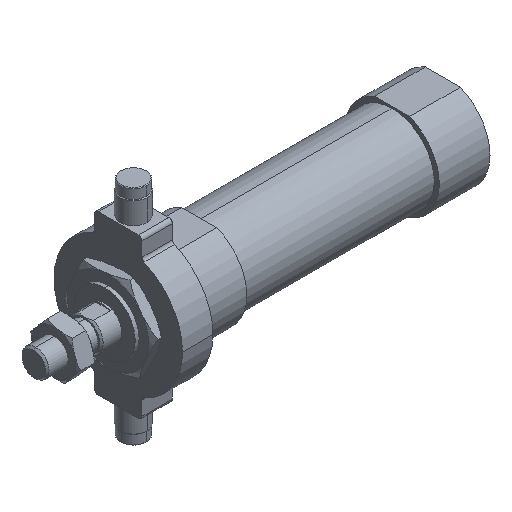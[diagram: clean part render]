
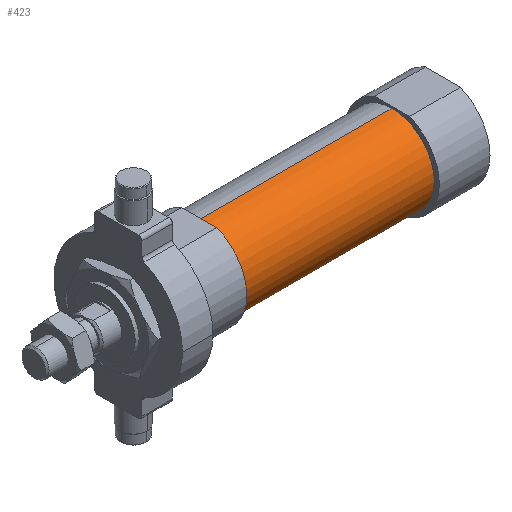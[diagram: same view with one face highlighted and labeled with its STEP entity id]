
A CAD part, isometric view. The second image highlights one B-rep face of the part: STEP entity #423.
In plain terms, the highlighted cylindrical face has radius 12.5 mm (diameter 25 mm), a partial arc.
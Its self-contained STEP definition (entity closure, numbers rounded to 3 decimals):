
#62 = VECTOR ( 'NONE', #2714, 1000. ) ;
#422 = CARTESIAN_POINT ( 'NONE',  ( -6.469, 0., -12.5 ) ) ;
#423 = ADVANCED_FACE ( 'NONE', ( #3119 ), #2866, .T. ) ;
#430 = CARTESIAN_POINT ( 'NONE',  ( -6.469, 0., 12.5 ) ) ;
#439 = DIRECTION ( 'NONE',  ( -1., 0., 0. ) ) ;
#584 = DIRECTION ( 'NONE',  ( 0., 0., 1. ) ) ;
#616 = DIRECTION ( 'NONE',  ( -1., 0., 0. ) ) ;
#1071 = CARTESIAN_POINT ( 'NONE',  ( 49., 0., 0. ) ) ;
#1197 = CIRCLE ( 'NONE', #2375, 12.5 ) ;
#1222 = ORIENTED_EDGE ( 'NONE', *, *, #4061, .F. ) ;
#1325 = AXIS2_PLACEMENT_3D ( 'NONE', #1715, #3017, #2049 ) ;
#1411 = DIRECTION ( 'NONE',  ( -1., 0., 0. ) ) ;
#1537 = ORIENTED_EDGE ( 'NONE', *, *, #2669, .F. ) ;
#1715 = CARTESIAN_POINT ( 'NONE',  ( -6.469, 0., 0. ) ) ;
#1800 = ORIENTED_EDGE ( 'NONE', *, *, #3448, .T. ) ;
#1906 = VERTEX_POINT ( 'NONE', #3033 ) ;
#2049 = DIRECTION ( 'NONE',  ( 0., 0., 1. ) ) ;
#2276 = EDGE_CURVE ( 'NONE', #4031, #2710, #3023, .T. ) ;
#2375 = AXIS2_PLACEMENT_3D ( 'NONE', #1071, #439, #2740 ) ;
#2669 = EDGE_CURVE ( 'NONE', #4031, #1906, #2860, .T. ) ;
#2710 = VERTEX_POINT ( 'NONE', #3375 ) ;
#2714 = DIRECTION ( 'NONE',  ( -1., 0., 0. ) ) ;
#2740 = DIRECTION ( 'NONE',  ( 0., 0., 1. ) ) ;
#2849 = AXIS2_PLACEMENT_3D ( 'NONE', #3907, #616, #584 ) ;
#2860 = LINE ( 'NONE', #422, #4158 ) ;
#2866 = CYLINDRICAL_SURFACE ( 'NONE', #1325, 12.5 ) ;
#2956 = VERTEX_POINT ( 'NONE', #3561 ) ;
#3017 = DIRECTION ( 'NONE',  ( -1., 0., 0. ) ) ;
#3023 = CIRCLE ( 'NONE', #2849, 12.5 ) ;
#3033 = CARTESIAN_POINT ( 'NONE',  ( 49., 0., -12.5 ) ) ;
#3119 = FACE_OUTER_BOUND ( 'NONE', #3197, .T. ) ;
#3197 = EDGE_LOOP ( 'NONE', ( #1537, #3350, #1800, #1222 ) ) ;
#3211 = LINE ( 'NONE', #430, #62 ) ;
#3350 = ORIENTED_EDGE ( 'NONE', *, *, #2276, .T. ) ;
#3375 = CARTESIAN_POINT ( 'NONE',  ( 106., 0., 12.5 ) ) ;
#3424 = CARTESIAN_POINT ( 'NONE',  ( 106., 0., -12.5 ) ) ;
#3448 = EDGE_CURVE ( 'NONE', #2710, #2956, #3211, .T. ) ;
#3561 = CARTESIAN_POINT ( 'NONE',  ( 49., 0., 12.5 ) ) ;
#3907 = CARTESIAN_POINT ( 'NONE',  ( 106., 0., 0. ) ) ;
#4031 = VERTEX_POINT ( 'NONE', #3424 ) ;
#4061 = EDGE_CURVE ( 'NONE', #1906, #2956, #1197, .T. ) ;
#4158 = VECTOR ( 'NONE', #1411, 1000. ) ;
